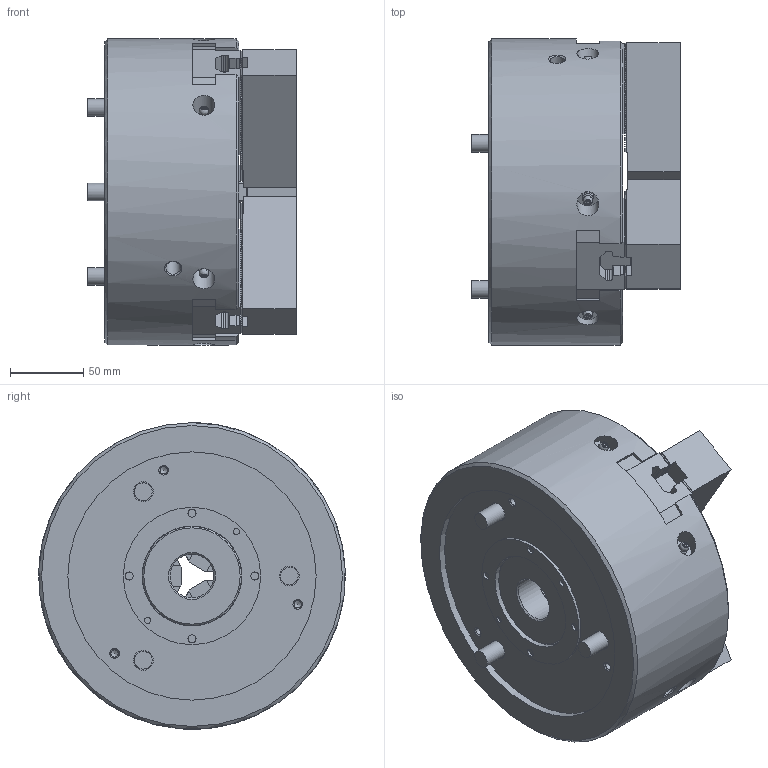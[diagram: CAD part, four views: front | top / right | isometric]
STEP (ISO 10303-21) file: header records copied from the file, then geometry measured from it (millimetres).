
FILE_DESCRIPTION (( 'STEP AP214' ), '1' );
FILE_NAME ('BS308_OC.STEP', '2019-12-20T07:38:33', ( '' ), ( '' ), 'SwSTEP 2.0', 'SolidWorks 2017', '' );
FILE_SCHEMA (( 'AUTOMOTIVE_DESIGN' ));
Length unit declared in the file: millimetre
Products named in the file (18): B傾僫僣僉 M12亊302_~30; 61P417260-1_俿僫僢僩_b_g; B傾僫僣僉 M12亊302_~30_棉太倌TI佱UA; 61P304291-3_ソフトジョー_W_‡_[_ﾃﾞﾌｫﾙﾄ_ATI≪UA; 61P304291-3_ソフトジョー_W_‡_[; BS308_OC; 61P417260-1_俿僫僢僩_b_g_棉太倌I佱UA; Part14^61P242456_クミタテ_^_e; Part14^61P242456_僋儈僞僥_^_e_棉太倌I佱UA
Assembly tree (13 placements, depth 2):
  B傾僫僣僉 M12亊302_~30
  61P417260-1_俿僫僢僩_b_g
  B傾僫僣僉 M12亊302_~30
  61P304291-3_ソフトジョー_W_‡_[
  BS308_OC
    Part14^61P242456_僋儈僞僥_^_e_棉太倌I佱UA
    61P304291-3_ソフトジョー_W_‡_[_ﾃﾞﾌｫﾙﾄ_ATI≪UA  x3
    61P417260-1_俿僫僢僩_b_g_棉太倌I佱UA  x3
    B傾僫僣僉 M12亊302_~30_棉太倌TI佱UA  x6
Bounding box: 142.7 x 210 x 210 mm (x, y, z)
Volume: 3200442.9 mm3; surface area: 279872 mm2
Topology: 13 solids, 26 shells, 3381 faces, 9679 edges, 6419 vertices
Faces by surface type: plane 2436, cylinder 786, cone 114, torus 33, sphere 12
Full cylindrical faces by diameter (mm): 1.9 x6, 3 x6, 4.2 x3, 5 x3, 9 x9, 10 x5, 10.2 x6, 12 x9, 13 x6, 13.5 x3, 15 x6, 18 x9, 19 x6, 20 x3, 30 x1, 52 x2, 54 x1, 61 x1, 68 x1, 68.4 x1, 94 x1, 170 x1, 210 x1
Entity records: 71268 total; most frequent: CARTESIAN_POINT 15296, ORIENTED_EDGE 12206, DIRECTION 10464, EDGE_CURVE 6103, VECTOR 4974, LINE 4974, VERTEX_POINT 4100, AXIS2_PLACEMENT_3D 2745
